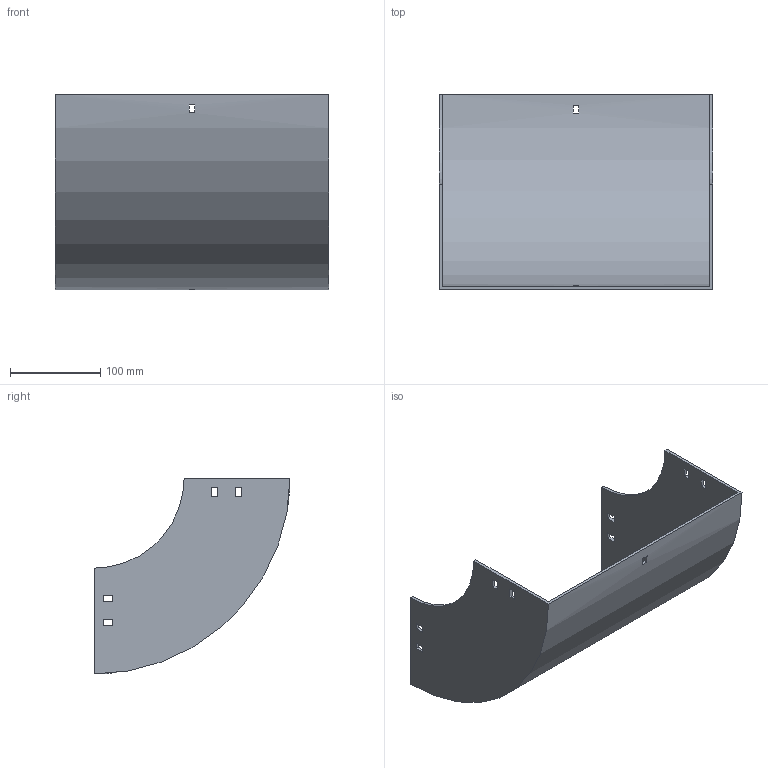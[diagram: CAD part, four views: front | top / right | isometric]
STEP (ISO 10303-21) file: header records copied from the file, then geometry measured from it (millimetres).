
FILE_DESCRIPTION (( 'STEP AP214' ), '1' );
FILE_NAME ('30B1J300.step', '2025-02-21T09:49:06', ( '' ), ( '' ), 'SwSTEP 2.0', 'SolidWorks 2023', '' );
FILE_SCHEMA (( 'AUTOMOTIVE_DESIGN' ));
Length unit declared in the file: millimetre
Products named in the file (1): 30B1J300
Bounding box: 304 x 217.5 x 217.5 mm (x, y, z)
Volume: 555016.9 mm3; surface area: 323165 mm2
Topology: 1 solids, 1 shells, 50 faces, 144 edges, 96 vertices
Faces by surface type: plane 46, cylinder 4
Entity records: 1687 total; most frequent: CARTESIAN_POINT 291, ORIENTED_EDGE 288, DIRECTION 262, EDGE_CURVE 144, LINE 128, VECTOR 128, VERTEX_POINT 96, EDGE_LOOP 70
